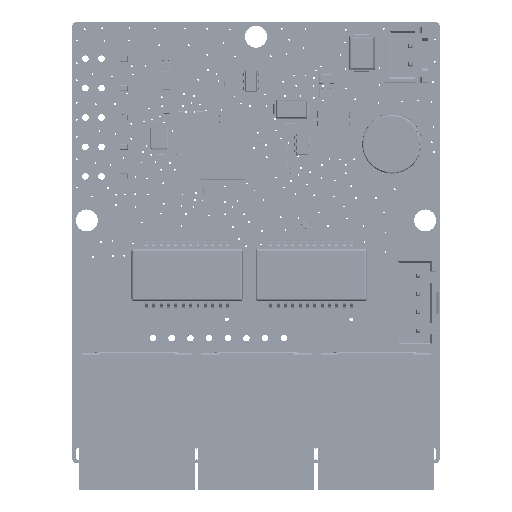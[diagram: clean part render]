
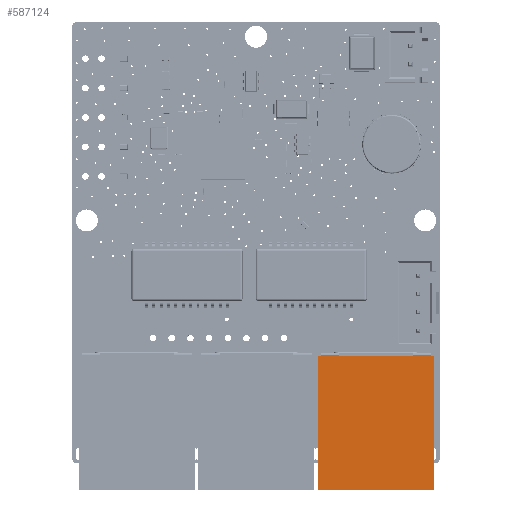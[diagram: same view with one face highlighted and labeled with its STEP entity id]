
A CAD part, top view. The second image highlights one B-rep face of the part: STEP entity #587124.
In plain terms, the highlighted planar face has unit normal (0, 0, 1).
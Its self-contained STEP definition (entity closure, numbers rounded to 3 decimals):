
#562976=VECTOR('NONE',#579758,1000.);
#563443=CARTESIAN_POINT('NONE',(7.9,8.9,13.45));
#563473 = ORIENTED_EDGE('NONE',*,*,#565467,.T.) ;
#563752=CARTESIAN_POINT('NONE',(0.,0.,13.45));
#563846 = ORIENTED_EDGE('NONE',*,*,#588779,.T.) ;
#563926 = EDGE_CURVE('NONE',#583469,#570405,#587325,.T.) ;
#563962=CARTESIAN_POINT('NONE',(7.5,9.3,13.45));
#564364=CARTESIAN_POINT('NONE',(-7.9,-9.3,13.45));
#564645=CARTESIAN_POINT('NONE',(7.9,-9.3,13.45));
#565467 = EDGE_CURVE('NONE',#570405,#586295,#569352,.T.) ;
#565704 = EDGE_CURVE('NONE',#570430,#585723,#581714,.T.) ;
#566105=CARTESIAN_POINT('NONE',(-7.9,8.9,13.45));
#566325=AXIS2_PLACEMENT_3D('NONE',#563752,#568296,#572149);
#566505 = ORIENTED_EDGE('NONE',*,*,#565704,.T.) ;
#566510=CARTESIAN_POINT('NONE',(-5.,9.017,13.45));
#566805=DIRECTION('NONE',(0.,1.,0.));
#567006 = VERTEX_POINT('NONE',#563443) ;
#567720=VECTOR('NONE',#585822,1000.);
#568123 = EDGE_CURVE('NONE',#586295,#572323,#577097,.T.) ;
#568296=DIRECTION('NONE',(0.,0.,1.));
#568367 = VERTEX_POINT('NONE',#564645) ;
#568391 = EDGE_CURVE('NONE',#572323,#575509,#582968,.T.) ;
#568427 = VERTEX_POINT('NONE',#571512) ;
#568683=DIRECTION('NONE',(0.,1.,0.));
#569352 = LINE('NONE',#577448,#562976) ;
#569709=DIRECTION('NONE',(-1.,0.,0.));
#569722 = ORIENTED_EDGE('NONE',*,*,#568391,.T.) ;
#570088 = ORIENTED_EDGE('NONE',*,*,#582741,.T.) ;
#570405 = VERTEX_POINT('NONE',#566510) ;
#570426 = LINE('NONE',#563962,#585472) ;
#570430 = VERTEX_POINT('NONE',#582771) ;
#570836=VECTOR('NONE',#566805,1000.);
#571512=CARTESIAN_POINT('NONE',(7.5,8.9,13.45));
#571536 = ORIENTED_EDGE('NONE',*,*,#568123,.T.) ;
#572149=DIRECTION('NONE',(1.,0.,0.));
#572323 = VERTEX_POINT('NONE',#588832) ;
#572705 = ORIENTED_EDGE('NONE',*,*,#577708,.T.) ;
#572990=DIRECTION('NONE',(0.,-1.,0.));
#573295 = ORIENTED_EDGE('NONE',*,*,#563926,.T.) ;
#574001=DIRECTION('NONE',(-1.,0.,0.));
#574495=CARTESIAN_POINT('NONE',(5.,8.9,13.45));
#574603=VECTOR('NONE',#572990,1000.);
#575059=VECTOR('NONE',#587162,1000.);
#575147=VECTOR('NONE',#581372,1000.);
#575162=VECTOR('NONE',#569709,1000.);
#575509 = VERTEX_POINT('NONE',#566105) ;
#575772=VECTOR('NONE',#568683,1000.);
#576754=CARTESIAN_POINT('NONE',(-7.9,-9.3,13.45));
#577097 = LINE('NONE',#585359,#574603) ;
#577439 = LINE('NONE',#581382,#567720) ;
#577448=CARTESIAN_POINT('NONE',(-7.5,9.017,13.45));
#577482=CARTESIAN_POINT('NONE',(-7.5,9.017,13.45));
#577708 = EDGE_CURVE('NONE',#568367,#567006,#583183,.T.) ;
#578568 = PLANE('NONE',#566325) ;
#578672 = LINE('NONE',#576754,#586315) ;
#578713 = FACE_OUTER_BOUND('NONE',#579622,.T.) ;
#579322=CARTESIAN_POINT('NONE',(5.,8.9,13.45));
#579622 = EDGE_LOOP('NONE',(#573295,#563473,#571536,#569722,#588078,#582760,#572705,#583608,#580517,#566505,#570088,#563846)) ;
#579758=DIRECTION('NONE',(-1.,0.,0.));
#579861 = EDGE_CURVE('NONE',#575509,#589217,#577439,.T.) ;
#579949=CARTESIAN_POINT('NONE',(5.,9.017,13.45));
#580517 = ORIENTED_EDGE('NONE',*,*,#588541,.T.) ;
#580721=DIRECTION('NONE',(-1.,0.,0.));
#581231 = LINE('NONE',#579322,#575147) ;
#581372=DIRECTION('NONE',(0.,-1.,0.));
#581382=CARTESIAN_POINT('NONE',(-7.9,-9.3,13.45));
#581714 = LINE('NONE',#584009,#589538) ;
#582741 = EDGE_CURVE('NONE',#585723,#585906,#581231,.T.) ;
#582760 = ORIENTED_EDGE('NONE',*,*,#588283,.T.) ;
#582771=CARTESIAN_POINT('NONE',(7.5,9.017,13.45));
#582837 = LINE('NONE',#584890,#586403) ;
#582968 = LINE('NONE',#587292,#575059) ;
#583107=DIRECTION('NONE',(1.,0.,0.));
#583183 = LINE('NONE',#585486,#570836) ;
#583469 = VERTEX_POINT('NONE',#589462) ;
#583608 = ORIENTED_EDGE('NONE',*,*,#586648,.T.) ;
#584009=CARTESIAN_POINT('NONE',(5.,9.017,13.45));
#584017=CARTESIAN_POINT('NONE',(-5.,8.9,13.45));
#584720=DIRECTION('NONE',(0.,1.,0.));
#584890=CARTESIAN_POINT('NONE',(7.5,8.9,13.45));
#585359=CARTESIAN_POINT('NONE',(-7.5,9.3,13.45));
#585472=VECTOR('NONE',#584720,1000.);
#585486=CARTESIAN_POINT('NONE',(7.9,-9.3,13.45));
#585723 = VERTEX_POINT('NONE',#579949) ;
#585822=DIRECTION('NONE',(0.,-1.,0.));
#585906 = VERTEX_POINT('NONE',#574495) ;
#586295 = VERTEX_POINT('NONE',#577482) ;
#586315=VECTOR('NONE',#583107,1000.);
#586403=VECTOR('NONE',#580721,1000.);
#586648 = EDGE_CURVE('NONE',#567006,#568427,#582837,.T.) ;
#587124 = ADVANCED_FACE('NONE',(#578713),#578568,.T.) ;
#587162=DIRECTION('NONE',(-1.,0.,0.));
#587292=CARTESIAN_POINT('NONE',(-7.5,8.9,13.45));
#587325 = LINE('NONE',#589599,#575772) ;
#588078 = ORIENTED_EDGE('NONE',*,*,#579861,.T.) ;
#588283 = EDGE_CURVE('NONE',#589217,#568367,#578672,.T.) ;
#588352 = LINE('NONE',#584017,#575162) ;
#588541 = EDGE_CURVE('NONE',#568427,#570430,#570426,.T.) ;
#588779 = EDGE_CURVE('NONE',#585906,#583469,#588352,.T.) ;
#588832=CARTESIAN_POINT('NONE',(-7.5,8.9,13.45));
#589217 = VERTEX_POINT('NONE',#564364) ;
#589462=CARTESIAN_POINT('NONE',(-5.,8.9,13.45));
#589538=VECTOR('NONE',#574001,1000.);
#589599=CARTESIAN_POINT('NONE',(-5.,9.3,13.45));
